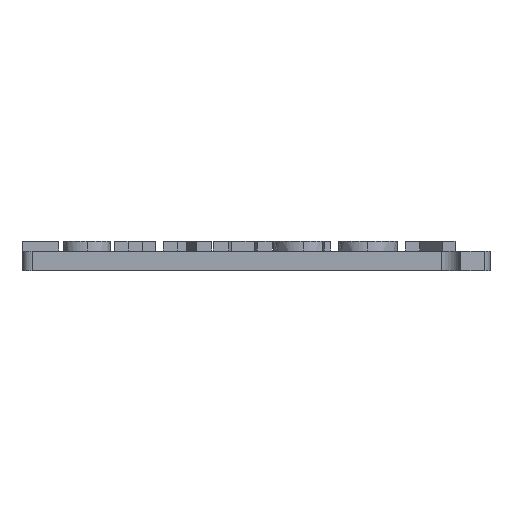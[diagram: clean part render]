
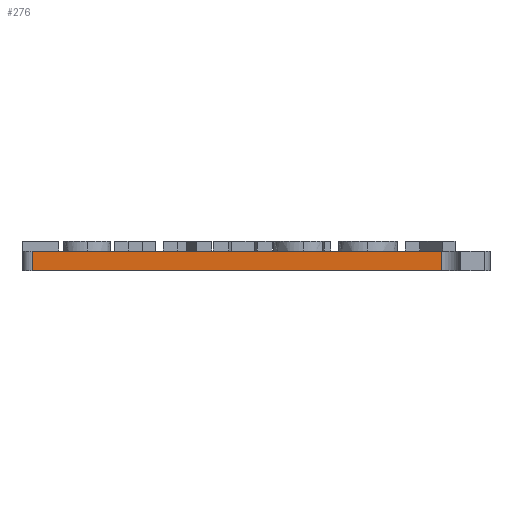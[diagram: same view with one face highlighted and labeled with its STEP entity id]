
A CAD part, front view. The second image highlights one B-rep face of the part: STEP entity #276.
In plain terms, the highlighted planar face has unit normal (0, -1, 0).
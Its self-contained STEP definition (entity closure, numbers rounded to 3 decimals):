
#276=ADVANCED_FACE('',(#609),#610,.T.);
#609=FACE_OUTER_BOUND('',#1010,.T.);
#610=PLANE('',#1011);
#1010=EDGE_LOOP('',(#1955,#1956,#1957,#1958));
#1011=AXIS2_PLACEMENT_3D('',#1959,#1960,#1961);
#1955=ORIENTED_EDGE('',*,*,#2874,.T.);
#1956=ORIENTED_EDGE('',*,*,#2954,.T.);
#1957=ORIENTED_EDGE('',*,*,#2933,.F.);
#1958=ORIENTED_EDGE('',*,*,#2955,.T.);
#1959=CARTESIAN_POINT('',(-25.5,-3.0,0.0));
#1960=DIRECTION('',(0.,-1.0,0.0));
#1961=DIRECTION('',(1.0,0.,0.0));
#2874=EDGE_CURVE('',#3548,#3546,#3549,.T.);
#2933=EDGE_CURVE('',#3646,#3648,#3649,.T.);
#2954=EDGE_CURVE('',#3546,#3648,#3683,.T.);
#2955=EDGE_CURVE('',#3646,#3548,#3684,.F.);
#3546=VERTEX_POINT('',#4714);
#3548=VERTEX_POINT('',#4716);
#3549=LINE('',#4717,#4718);
#3646=VERTEX_POINT('',#4927);
#3648=VERTEX_POINT('',#4929);
#3649=LINE('',#4930,#4931);
#3683=LINE('',#4981,#4982);
#3684=LINE('',#4983,#4984);
#4714=CARTESIAN_POINT('',(-5.0,-3.0,0.0));
#4716=CARTESIAN_POINT('',(-47.0,-3.0,0.0));
#4717=CARTESIAN_POINT('',(-25.5,-3.0,0.0));
#4718=VECTOR('',#5409,1.0);
#4927=CARTESIAN_POINT('',(-47.0,-3.0,2.0));
#4929=CARTESIAN_POINT('',(-5.0,-3.0,2.0));
#4930=CARTESIAN_POINT('',(-25.5,-3.0,2.0));
#4931=VECTOR('',#5456,1.0);
#4981=CARTESIAN_POINT('',(-5.0,-3.0,2.0));
#4982=VECTOR('',#5480,1.0);
#4983=CARTESIAN_POINT('',(-47.0,-3.0,0.0));
#4984=VECTOR('',#5481,1.0);
#5409=DIRECTION('',(1.0,0.,0.0));
#5456=DIRECTION('',(1.0,0.,0.0));
#5480=DIRECTION('',(0.0,0.0,1.0));
#5481=DIRECTION('',(0.0,0.0,1.0));
